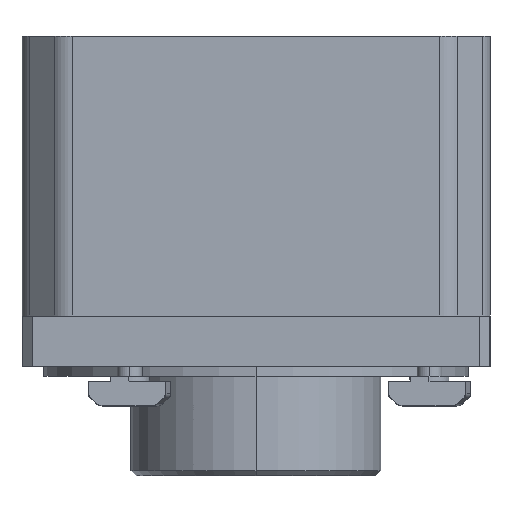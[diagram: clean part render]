
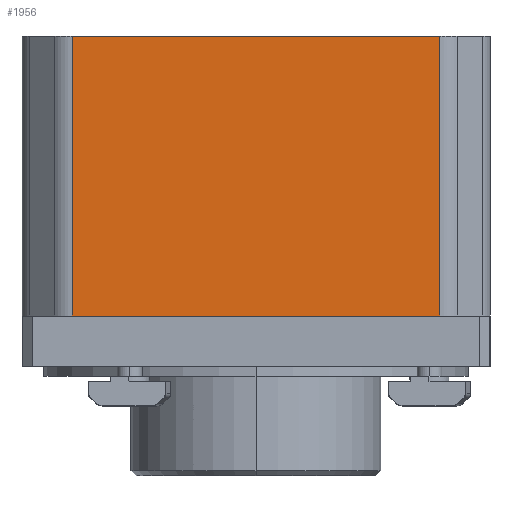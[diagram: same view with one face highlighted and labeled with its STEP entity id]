
A CAD part, left-side view. The second image highlights one B-rep face of the part: STEP entity #1956.
In plain terms, the highlighted planar face has unit normal (-1, 0, 0).
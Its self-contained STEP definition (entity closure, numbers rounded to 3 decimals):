
#180=DIRECTION('',(0.,-1.,0.));
#181=VECTOR('',#180,73.458);
#182=CARTESIAN_POINT('',(-51.,36.729,66.));
#183=LINE('',#182,#181);
#261=DIRECTION('',(0.,1.,0.));
#262=VECTOR('',#261,73.458);
#263=CARTESIAN_POINT('',(-51.,-36.729,10.));
#264=LINE('',#263,#262);
#611=DIRECTION('',(0.,0.,-1.));
#612=VECTOR('',#611,56.);
#613=CARTESIAN_POINT('',(-51.,36.729,66.));
#614=LINE('',#613,#612);
#615=DIRECTION('',(0.,0.,1.));
#616=VECTOR('',#615,56.);
#617=CARTESIAN_POINT('',(-51.,-36.729,10.));
#618=LINE('',#617,#616);
#977=CARTESIAN_POINT('',(-51.,36.729,66.));
#978=VERTEX_POINT('',#977);
#979=CARTESIAN_POINT('',(-51.,36.729,10.));
#980=VERTEX_POINT('',#979);
#1021=CARTESIAN_POINT('',(-51.,-36.729,66.));
#1023=VERTEX_POINT('',#1021);
#1027=CARTESIAN_POINT('',(-51.,-36.729,10.));
#1028=VERTEX_POINT('',#1027);
#1944=CARTESIAN_POINT('',(-51.,46.8,10.));
#1945=DIRECTION('',(-1.,0.,0.));
#1946=DIRECTION('',(0.,-1.,0.));
#1947=AXIS2_PLACEMENT_3D('',#1944,#1945,#1946);
#1948=PLANE('',#1947);
#1949=ORIENTED_EDGE('',*,*,#1415,.F.);
#1950=ORIENTED_EDGE('',*,*,#1360,.T.);
#1952=ORIENTED_EDGE('',*,*,#1951,.F.);
#1953=ORIENTED_EDGE('',*,*,#1447,.T.);
#1954=EDGE_LOOP('',(#1949,#1950,#1952,#1953));
#1955=FACE_OUTER_BOUND('',#1954,.F.);
#1360=EDGE_CURVE('',#978,#1023,#183,.T.);
#1415=EDGE_CURVE('',#978,#980,#614,.T.);
#1447=EDGE_CURVE('',#1028,#980,#264,.T.);
#1951=EDGE_CURVE('',#1028,#1023,#618,.T.);
#1956=ADVANCED_FACE('',(#1955),#1948,.T.);
